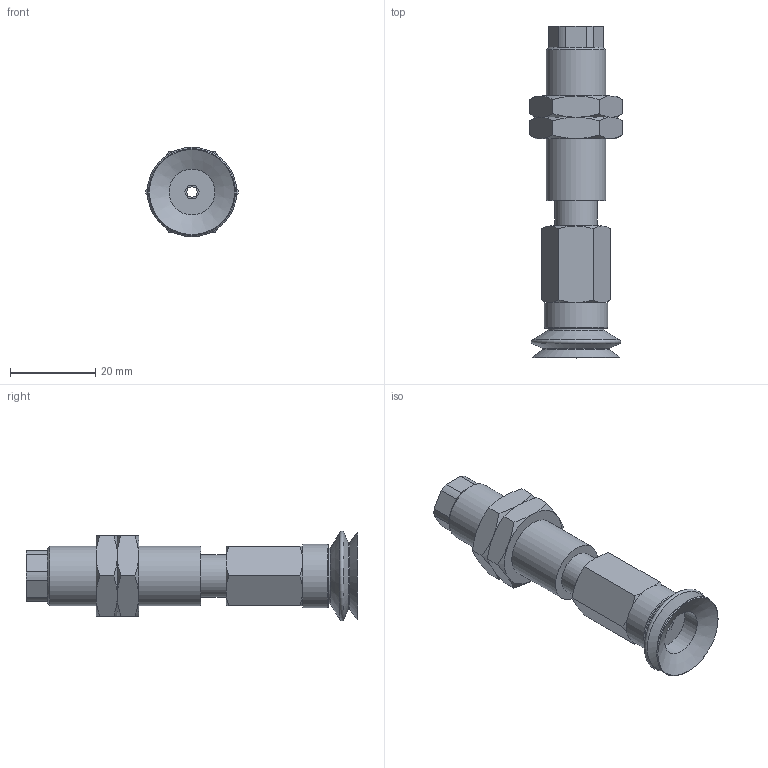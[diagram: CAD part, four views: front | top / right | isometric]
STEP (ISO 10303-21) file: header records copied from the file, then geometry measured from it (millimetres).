
FILE_DESCRIPTION(('STEP AP203'),'1');
FILE_NAME('.stp','2025-08-27T07:38:51',(' '),(' '),'Spatial InterOp 3D',' ',' ');
FILE_SCHEMA(('CONFIG_CONTROL_DESIGN'));
Length unit declared in the file: millimetre
Products named in the file (7): BNABPJTS-20-6-※; ADAPTER; NAPBTS-20-6--M; Adapter-20-NAPJ; NUT-NAPJ-20-6-s; NAPJTS-20-6-FBODY; BPJG-20-※
Assembly tree (7 placements, depth 2):
  BNABPJTS-20-6-※
    ADAPTER
    NAPBTS-20-6--M
    Adapter-20-NAPJ
    NUT-NAPJ-20-6-s  x2
    NAPJTS-20-6-FBODY
    BPJG-20-※
Bounding box: 21.94 x 78 x 21 mm (x, y, z)
Volume: 12809.1 mm3; surface area: 10353.2 mm2
Topology: 7 solids, 7 shells, 127 faces, 272 edges, 165 vertices
Faces by surface type: plane 50, cone 49, cylinder 21, torus 7
Full cylindrical faces by diameter (mm): 2.5 x1, 3 x2, 4.134 x2, 4.6 x1, 5 x1, 10 x2, 10.8 x1, 11 x1, 13.188 x2, 14 x1, 15 x1
Entity records: 3188 total; most frequent: CARTESIAN_POINT 762, DIRECTION 442, ORIENTED_EDGE 368, AXIS2_PLACEMENT_3D 194, EDGE_CURVE 184, EDGE_LOOP 154, VERTEX_POINT 130, FACE_OUTER_BOUND 125
